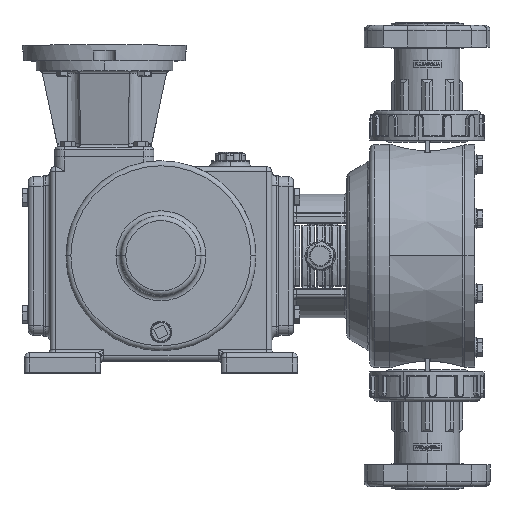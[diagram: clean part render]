
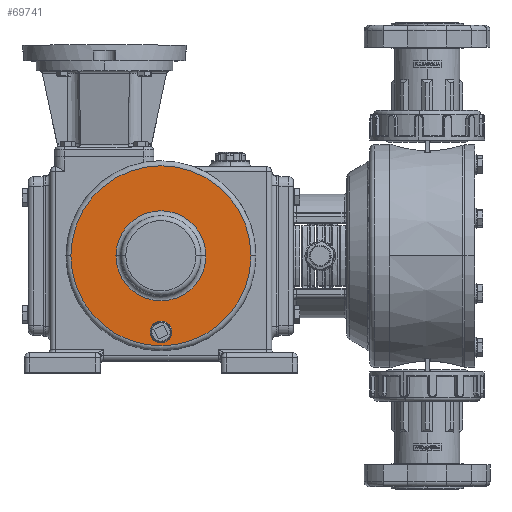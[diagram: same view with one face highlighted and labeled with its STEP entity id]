
A CAD part, top view. The second image highlights one B-rep face of the part: STEP entity #69741.
In plain terms, the highlighted planar face has unit normal (0, 0, 1).
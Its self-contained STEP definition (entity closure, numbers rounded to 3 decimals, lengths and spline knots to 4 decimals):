
#2991 = AXIS2_PLACEMENT_3D ( 'NONE', #21221, #133899, #134631 ) ;
#5091 = ORIENTED_EDGE ( 'NONE', *, *, #20689, .T. ) ;
#6637 = DIRECTION ( 'NONE',  ( 0., 0., 1. ) ) ;
#11426 = ORIENTED_EDGE ( 'NONE', *, *, #137551, .F. ) ;
#16848 = AXIS2_PLACEMENT_3D ( 'NONE', #111166, #6637, #52581 ) ;
#19046 = DIRECTION ( 'NONE',  ( 0., 0., -1. ) ) ;
#20689 = EDGE_CURVE ( 'NONE', #53881, #132331, #55750, .T. ) ;
#21221 = CARTESIAN_POINT ( 'NONE',  ( 1.0236, 0., 2.3622 ) ) ;
#21490 = DIRECTION ( 'NONE',  ( 1., 0., 0. ) ) ;
#22649 = EDGE_LOOP ( 'NONE', ( #5091, #121721 ) ) ;
#25975 = AXIS2_PLACEMENT_3D ( 'NONE', #87477, #43003, #21490 ) ;
#33046 = CARTESIAN_POINT ( 'NONE',  ( -0.7677, 0., 2.3622 ) ) ;
#33471 = CIRCLE ( 'NONE', #16848, 0.4335 ) ;
#35396 = CIRCLE ( 'NONE', #25975, 0.4335 ) ;
#36312 = EDGE_CURVE ( 'NONE', #125510, #122085, #85508, .T. ) ;
#42645 = CARTESIAN_POINT ( 'NONE',  ( 1.0236, 0., 2.3622 ) ) ;
#43003 = DIRECTION ( 'NONE',  ( 0., 0., 1. ) ) ;
#44926 = VERTEX_POINT ( 'NONE', #98590 ) ;
#52581 = DIRECTION ( 'NONE',  ( 1., 0., 0. ) ) ;
#53881 = VERTEX_POINT ( 'NONE', #73084 ) ;
#53915 = AXIS2_PLACEMENT_3D ( 'NONE', #73605, #142553, #72169 ) ;
#54489 = PLANE ( 'NONE',  #144469 ) ;
#54916 = EDGE_LOOP ( 'NONE', ( #121057, #11426 ) ) ;
#55750 = CIRCLE ( 'NONE', #74664, 3.5827 ) ;
#59543 = CARTESIAN_POINT ( 'NONE',  ( 1.0236, 0., 2.3622 ) ) ;
#64255 = DIRECTION ( 'NONE',  ( 1., 0., 0. ) ) ;
#68041 = CARTESIAN_POINT ( 'NONE',  ( 2.815, 0., 2.3622 ) ) ;
#69741 = ADVANCED_FACE ( 'NONE', ( #132362, #78947, #111584 ), #54489, .T. ) ;
#72032 = EDGE_CURVE ( 'NONE', #141619, #44926, #33471, .T. ) ;
#72169 = DIRECTION ( 'NONE',  ( 1., 0., 0. ) ) ;
#73084 = CARTESIAN_POINT ( 'NONE',  ( 4.6063, 0., 2.3622 ) ) ;
#73605 = CARTESIAN_POINT ( 'NONE',  ( 1.0236, 0., 2.3622 ) ) ;
#74664 = AXIS2_PLACEMENT_3D ( 'NONE', #59543, #104774, #94383 ) ;
#78947 = FACE_OUTER_BOUND ( 'NONE', #22649, .T. ) ;
#85508 = CIRCLE ( 'NONE', #2991, 1.7913 ) ;
#87477 = CARTESIAN_POINT ( 'NONE',  ( 1.0236, -3.0315, 2.3622 ) ) ;
#90054 = DIRECTION ( 'NONE',  ( 0., 0., 1. ) ) ;
#94383 = DIRECTION ( 'NONE',  ( 1., 0., 0. ) ) ;
#98590 = CARTESIAN_POINT ( 'NONE',  ( 0.5902, -3.0315, 2.3622 ) ) ;
#100848 = ORIENTED_EDGE ( 'NONE', *, *, #36312, .T. ) ;
#104774 = DIRECTION ( 'NONE',  ( 0., 0., 1. ) ) ;
#104810 = EDGE_CURVE ( 'NONE', #132331, #53881, #139228, .T. ) ;
#110807 = EDGE_LOOP ( 'NONE', ( #100848, #123788 ) ) ;
#111166 = CARTESIAN_POINT ( 'NONE',  ( 1.0236, -3.0315, 2.3622 ) ) ;
#111584 = FACE_BOUND ( 'NONE', #110807, .T. ) ;
#114396 = CARTESIAN_POINT ( 'NONE',  ( -2.5591, 0., 2.3622 ) ) ;
#118401 = CARTESIAN_POINT ( 'NONE',  ( 1.0236, 0., 2.3622 ) ) ;
#121057 = ORIENTED_EDGE ( 'NONE', *, *, #72032, .F. ) ;
#121721 = ORIENTED_EDGE ( 'NONE', *, *, #104810, .T. ) ;
#121958 = DIRECTION ( 'NONE',  ( 1., 0., 0. ) ) ;
#122085 = VERTEX_POINT ( 'NONE', #33046 ) ;
#123454 = AXIS2_PLACEMENT_3D ( 'NONE', #118401, #19046, #64255 ) ;
#123788 = ORIENTED_EDGE ( 'NONE', *, *, #130817, .T. ) ;
#125510 = VERTEX_POINT ( 'NONE', #68041 ) ;
#130817 = EDGE_CURVE ( 'NONE', #122085, #125510, #142379, .T. ) ;
#132331 = VERTEX_POINT ( 'NONE', #114396 ) ;
#132362 = FACE_BOUND ( 'NONE', #54916, .T. ) ;
#132647 = CARTESIAN_POINT ( 'NONE',  ( 1.4571, -3.0315, 2.3622 ) ) ;
#133899 = DIRECTION ( 'NONE',  ( 0., 0., -1. ) ) ;
#134631 = DIRECTION ( 'NONE',  ( 1., 0., 0. ) ) ;
#137551 = EDGE_CURVE ( 'NONE', #44926, #141619, #35396, .T. ) ;
#139228 = CIRCLE ( 'NONE', #53915, 3.5827 ) ;
#141619 = VERTEX_POINT ( 'NONE', #132647 ) ;
#142379 = CIRCLE ( 'NONE', #123454, 1.7913 ) ;
#142553 = DIRECTION ( 'NONE',  ( 0., 0., 1. ) ) ;
#144469 = AXIS2_PLACEMENT_3D ( 'NONE', #42645, #90054, #121958 ) ;
